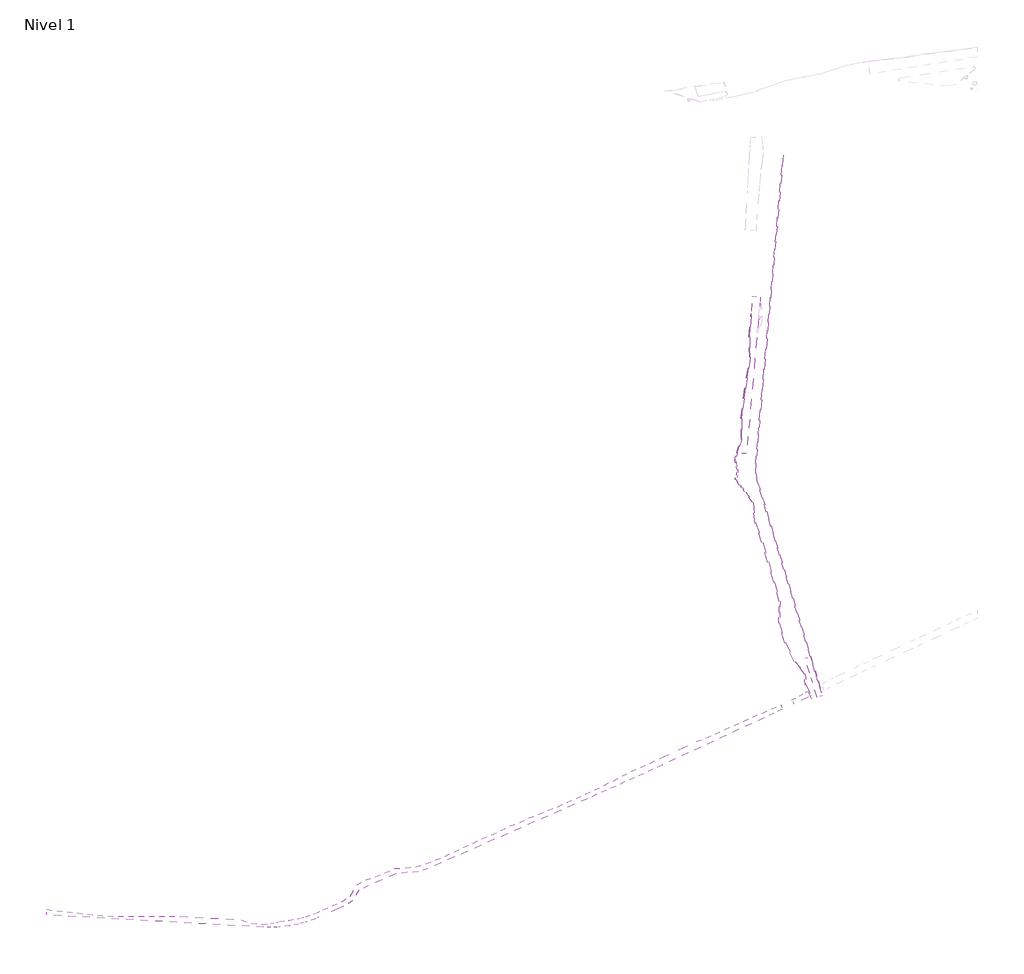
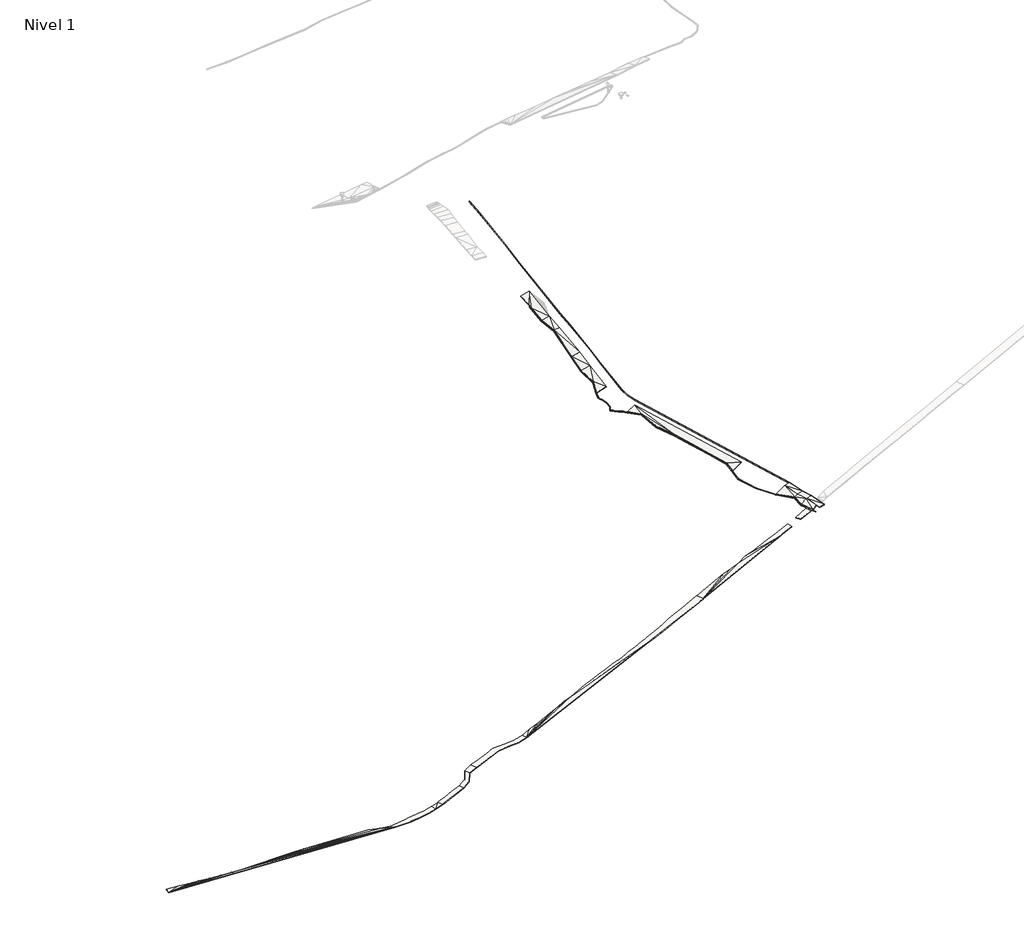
# One storey, part 1 of 45: 6 slabs.
"""IFC4 building model written with IfcOpenShell, lengths in millimetres."""

from ifc_helpers import new_model, si_unit, frame, origin, place, context, project, spatial, polyline, circle_curve, faceted_brep, element, save
from ifc_brep_helpers import plane_surface, cylinder_surface, revolved_surface, advanced_brep

model = new_model("IFC4")

# Units and contexts
model_context = context("Model", 3, world=origin())
ifc_project = project(units=[si_unit("LENGTHUNIT", "METRE", prefix="MILLI")], contexts=[model_context])

# Site, building, storey
site = spatial("IfcSite", under=ifc_project)
building = spatial("IfcBuilding", under=site)
storey = spatial("IfcBuildingStorey", under=building, Name="Nivel 1", Elevation=0.0)

# Slabs
placement = place(None, origin())
element("IfcSlab", 1, ObjectType="Lippia", at=placement, inside=storey, context=model_context, shape_type="Brep", body=[
    faceted_brep([(-176955.29196, -887777.8293685, 2830.0), (-176955.29196, -887777.8293685, 3130.0), (-172486.7699289, -885811.6730758, 3130.0), (-172486.7699289, -885811.6730758, 2830.0), (-171742.2672685, -887965.8837345, 3130.0), (-171742.2672685, -887965.8837345, 2830.0), (-175958.1229099, -889931.2631086, 3130.0), (-175958.1229099, -889931.2631086, 2830.0), (-180491.4289126, -892040.5807841, 3130.0), (-180491.4289126, -892040.5807841, 2830.0), (-230087.3249721, -915006.4569291, 3070.0), (-230087.3249721, -915006.4569291, 2770.0), (-230329.374977, -915118.5209368, 3070.0), (-230329.374977, -915118.5209368, 2770.0), (-230399.1868208, -915150.8350287, 3070.0), (-230399.1868208, -915150.8350287, 2770.0), (-234923.5557702, -917238.0789526, 3070.0), (-234923.5557702, -917238.0789526, 2770.0), (-239453.1286853, -919314.0054446, 3070.0), (-239453.1286853, -919314.0054446, 2770.0), (-243987.8772561, -921378.6015276, 3070.0), (-243987.8772561, -921378.6015276, 2770.0), (-248527.7731411, -923431.8542991, 3070.0), (-248527.7731411, -923431.8542991, 2770.0), (-253072.7879654, -925473.7509274, 3070.0), (-253072.7879654, -925473.7509274, 2770.0), (-257622.8933225, -927504.2786494, 3070.0), (-257622.8933225, -927504.2786494, 2770.0), (-262178.0607749, -929523.4247752, 3070.0), (-262178.0607749, -929523.4247752, 2770.0), (-266667.9698208, -931500.3319391, 3070.0), (-266667.9698208, -931500.3319391, 2770.0), (-344573.7741226, -965687.8531118, 2900.0), (-344573.7741226, -965687.8531118, 2600.0), (-349399.6199214, -967133.519464, 2900.0), (-349399.6199214, -967133.519464, 2600.0), (-354681.0043005, -967541.1140815, 2900.0), (-354681.0043005, -967541.1140815, 2600.0), (-359896.4871213, -968098.8837842, 2900.0), (-359896.4871213, -968098.8837842, 2600.0), (-373622.7287017, -974147.9199518, 2900.0), (-373622.7287017, -974147.9199518, 2600.0), (-378188.7991046, -976185.557016, 2830.0), (-378188.7991046, -976185.557016, 2530.0), (-381382.5509948, -981350.404647, 2730.0), (-381382.5509948, -981350.404647, 2430.0), (-385660.1279593, -984045.4544917, 2630.0), (-385660.1279593, -984045.4544917, 2330.0), (-397889.4636122, -989412.0722328, 2630.0), (-397889.4636122, -989412.0722328, 2330.0), (-399248.9860948, -989988.2702388, 2630.0), (-399248.9860948, -989988.2702388, 2330.0), (-399293.753138, -990006.5572456, 2630.0), (-399293.753138, -990006.5572456, 2330.0), (-403464.5473408, -991525.9187602, 2620.0), (-403464.5473408, -991525.9187602, 2320.0), (-405411.2786613, -992115.0570818, 2620.0), (-405411.2786613, -992115.0570818, 2320.0), (-407785.8067034, -992735.066031, 2620.0), (-407785.8067034, -992735.066031, 2320.0), (-411724.6541677, -993533.2177923, 2620.0), (-411724.6541677, -993533.2177923, 2320.0), (-412187.2072063, -993608.5608591, 2620.0), (-412187.2072063, -993608.5608591, 2320.0), (-416642.7178993, -994141.2371815, 2620.0), (-416642.7178993, -994141.2371815, 2320.0), (-418156.2363455, -994243.5985216, 2620.0), (-418156.2363455, -994243.5985216, 2320.0), (-421125.9878109, -994329.9446244, 2620.0), (-421125.9878109, -994329.9446244, 2320.0), (-424626.9281509, -994237.4628418, 2620.0), (-424626.9281509, -994237.4628418, 2320.0), (-530556.094211, -988254.020159, 2462.9805318), (-530556.094211, -988254.020159, 2162.9805318), (-530404.9684967, -985578.5335329, 2463.0), (-530404.9684967, -985578.5335329, 2163.0), (-525430.3908756, -986169.7049279, 2463.0), (-525430.3908756, -986169.7049279, 2163.0), (-520457.7446564, -986795.0693153, 2463.0), (-520457.7446564, -986795.0693153, 2163.0), (-515478.3895963, -987301.6622931, 2463.0), (-515478.3895963, -987301.6622931, 2163.0), (-510505.2470749, -987918.2402853, 2463.0), (-510505.2470749, -987918.2402853, 2163.0), (-505527.3742451, -988451.0742453, 2463.0), (-505527.3742451, -988451.0742453, 2163.0), (-500538.0236586, -988780.7092675, 2463.0), (-500538.0236586, -988780.7092675, 2163.0), (-495534.8169833, -988865.0400367, 2463.0), (-495534.8169833, -988865.0400367, 2163.0), (-490528.7023022, -988897.8882999, 2463.0), (-490528.7023022, -988897.8882999, 2163.0), (-485523.0076509, -988938.1726541, 2463.0), (-485523.0076509, -988938.1726541, 2163.0), (-480517.4986644, -988981.7439605, 2463.0), (-480517.4986644, -988981.7439605, 2163.0), (-475509.7240159, -988985.2046341, 2463.0), (-475509.7240159, -988985.2046341, 2163.0), (-470494.3433279, -988854.0101469, 2463.0), (-470494.3433279, -988854.0101469, 2163.0), (-465490.2418895, -988922.5002889, 2463.0), (-465490.2418895, -988922.5002889, 2163.0), (-435537.9865376, -990614.3629708, 2620.0), (-435537.9865376, -990614.3629708, 2320.0), (-430627.6675198, -992343.1503892, 2620.0), (-430627.6675198, -992343.1503892, 2320.0), (-425646.467569, -992817.0819458, 2620.0), (-425646.467569, -992817.0819458, 2320.0), (-424539.4403045, -992688.602914, 2620.0), (-424539.4403045, -992688.602914, 2320.0), (-421133.6089593, -992215.9658958, 2620.0), (-421133.6089593, -992215.9658958, 2320.0), (-418293.0274685, -991737.4871158, 2620.0), (-418293.0274685, -991737.4871158, 2320.0), (-416860.3836227, -991444.1066951, 2620.0), (-416860.3836227, -991444.1066951, 2320.0), (-412619.173891, -990887.7750103, 2620.0), (-412619.173891, -990887.7750103, 2320.0), (-412177.3798137, -990822.4558149, 2620.0), (-412177.3798137, -990822.4558149, 2320.0), (-408410.1905281, -990119.9802541, 2620.0), (-408410.1905281, -990119.9802541, 2320.0), (-406102.4755313, -989678.7012805, 2620.0), (-406102.4755313, -989678.7012805, 2320.0), (-404231.1870837, -989143.264043, 2620.0), (-404231.1870837, -989143.264043, 2320.0), (-400226.8746159, -987719.5462052, 2630.0), (-400226.8746159, -987719.5462052, 2330.0), (-400184.4245478, -987701.0018163, 2630.0), (-400184.4245478, -987701.0018163, 2330.0), (-398884.4451069, -987144.7293263, 2630.0), (-398884.4451069, -987144.7293263, 2330.0), (-395792.149461, -985842.2215142, 2630.0), (-395792.149461, -985842.2215142, 2330.0), (-391245.331725, -983760.7118775, 2630.0), (-391245.331725, -983760.7118775, 2330.0), (-386641.4531349, -981809.2313175, 2630.0), (-386641.4531349, -981809.2313175, 2330.0), (-382388.984385, -979056.9654022, 2730.0), (-382388.984385, -979056.9654022, 2430.0), (-379318.6526492, -973610.8705186, 2830.0), (-379318.6526492, -973610.8705186, 2530.0), (-374924.3512039, -971181.8099663, 2900.0), (-374924.3512039, -971181.8099663, 2600.0), (-370141.8879159, -969637.2844603, 2900.0), (-370141.8879159, -969637.2844603, 2600.0), (-365517.8672948, -967731.7031351, 2900.0), (-365517.8672948, -967731.7031351, 2600.0), (-360988.5775142, -965610.251163, 2900.0), (-360988.5775142, -965610.251163, 2600.0), (-355666.0663705, -965296.3753518, 2900.0), (-355666.0663705, -965296.3753518, 2600.0), (-350405.8161769, -964840.6205968, 2900.0), (-350405.8161769, -964840.6205968, 2600.0), (-345592.4285116, -963366.5649117, 2900.0), (-345592.4285116, -963366.5649117, 2600.0), (-340970.2208436, -961456.8522674, 3070.0), (-340970.2208436, -961456.8522674, 2770.0), (-336342.9924741, -959558.5806918, 3070.0), (-336342.9924741, -959558.5806918, 2770.0), (-331782.4972727, -957508.2389758, 3070.0), (-331782.4972727, -957508.2389758, 2770.0), (-327287.3507981, -955308.9819577, 3070.0), (-327287.3507981, -955308.9819577, 2770.0), (-322746.8065391, -953213.1764543, 3070.0), (-322746.8065391, -953213.1764543, 2770.0), (-318257.0997217, -951001.5236576, 3070.0), (-318257.0997217, -951001.5236576, 2770.0), (-313615.9016544, -949135.0859356, 3070.0), (-313615.9016544, -949135.0859356, 2770.0), (-309074.0919562, -947042.16409, 3070.0), (-309074.0919562, -947042.16409, 2770.0), (-304558.4337628, -944889.6487438, 3070.0), (-304558.4337628, -944889.6487438, 2770.0), (-299896.0358311, -943071.5208266, 3070.0), (-299896.0358311, -943071.5208266, 2770.0), (-295351.9402715, -940983.807952, 3070.0), (-295351.9402715, -940983.807952, 2770.0), (-290741.1215126, -939048.1425029, 3070.0), (-290741.1215126, -939048.1425029, 2770.0), (-286101.8882174, -937177.2274998, 3070.0), (-286101.8882174, -937177.2274998, 2770.0), (-281406.0821846, -935435.2292613, 3070.0), (-281406.0821846, -935435.2292613, 2770.0), (-276901.3422436, -933257.8336306, 3070.0), (-276901.3422436, -933257.8336306, 2770.0), (-272297.4499893, -931306.3842066, 3070.0), (-272297.4499893, -931306.3842066, 2770.0), (-267738.6534465, -929252.1716253, 3070.0), (-267738.6534465, -929252.1716253, 2770.0), (-267669.2759861, -929218.5765066, 3070.0), (-267669.2759861, -929218.5765066, 2770.0), (-263184.399542, -927245.4558135, 3070.0), (-263184.399542, -927245.4558135, 2770.0), (-258736.1375867, -925001.264057, 3070.0), (-258736.1375867, -925001.264057, 2770.0), (-254295.5040146, -922743.0066679, 3070.0), (-254295.5040146, -922743.0066679, 2770.0), (-249860.8053362, -920474.580393, 3070.0), (-249860.8053362, -920474.580393, 2770.0), (-245392.2526598, -918283.7313869, 3070.0), (-245392.2526598, -918283.7313869, 2770.0), (-240851.9253298, -916251.7971721, 3070.0), (-240851.9253298, -916251.7971721, 2770.0), (-236330.1670852, -914179.0215996, 3070.0), (-236330.1670852, -914179.0215996, 2770.0), (-231826.734035, -912066.5846456, 3070.0), (-231826.734035, -912066.5846456, 2770.0), (-231757.0412362, -912034.3256582, 3070.0), (-231757.0412362, -912034.3256582, 2770.0), (-231515.4039816, -911922.4527449, 3070.0), (-231515.4039816, -911922.4527449, 2770.0), (-213679.674474, -903663.4396546, 3130.0), (-213679.674474, -903663.4396546, 2830.0), (-209008.0525086, -901852.8218333, 3130.0), (-209008.0525086, -901852.8218333, 2830.0), (-204387.8093632, -899931.2490196, 3130.0), (-204387.8093632, -899931.2490196, 2830.0), (-199903.8300831, -897715.4079423, 3600.0), (-199903.8300831, -897715.4079423, 3300.0), (-195286.7877743, -895786.9227723, 3130.0), (-195286.7877743, -895786.9227723, 2830.0), (-190725.3479831, -893738.3613334, 3130.0), (-190725.3479831, -893738.3613334, 2830.0), (-186188.7664627, -891636.1172822, 3130.0), (-186188.7664627, -891636.1172822, 2830.0), (-181510.4705311, -889839.9122067, 3130.0), (-181510.4705311, -889839.9122067, 2830.0)], [[[0, 1, 2, 3]], [[3, 2, 4, 5]], [[5, 4, 6, 7]], [[7, 6, 8, 9]], [[9, 8, 10, 11]], [[11, 10, 12, 13]], [[13, 12, 14, 15]], [[15, 14, 16, 17]], [[17, 16, 18, 19]], [[19, 18, 20, 21]], [[21, 20, 22, 23]], [[23, 22, 24, 25]], [[25, 24, 26, 27]], [[27, 26, 28, 29]], [[29, 28, 30, 31]], [[31, 30, 32, 33]], [[33, 32, 34, 35]], [[35, 34, 36, 37]], [[37, 36, 38, 39]], [[39, 38, 40, 41]], [[41, 40, 42, 43]], [[43, 42, 44, 45]], [[45, 44, 46, 47]], [[47, 46, 48, 49]], [[49, 48, 50, 51]], [[51, 50, 52, 53]], [[53, 52, 54, 55]], [[55, 54, 56, 57]], [[57, 56, 58, 59]], [[59, 58, 60, 61]], [[61, 60, 62, 63]], [[63, 62, 64, 65]], [[65, 64, 66, 67]], [[67, 66, 68, 69]], [[69, 68, 70, 71]], [[71, 70, 72, 73]], [[73, 72, 74, 75]], [[75, 74, 76, 77]], [[77, 76, 78, 79]], [[79, 78, 80, 81]], [[81, 80, 82, 83]], [[83, 82, 84, 85]], [[85, 84, 86, 87]], [[87, 86, 88, 89]], [[89, 88, 90, 91]], [[91, 90, 92, 93]], [[93, 92, 94, 95]], [[95, 94, 96, 97]], [[97, 96, 98, 99]], [[99, 98, 100, 101]], [[101, 100, 102, 103]], [[103, 102, 104, 105]], [[105, 104, 106, 107]], [[107, 106, 108, 109]], [[109, 108, 110, 111]], [[111, 110, 112, 113]], [[113, 112, 114, 115]], [[115, 114, 116, 117]], [[117, 116, 118, 119]], [[119, 118, 120, 121]], [[121, 120, 122, 123]], [[123, 122, 124, 125]], [[125, 124, 126, 127]], [[127, 126, 128, 129]], [[129, 128, 130, 131]], [[131, 130, 132, 133]], [[133, 132, 134, 135]], [[135, 134, 136, 137]], [[137, 136, 138, 139]], [[139, 138, 140, 141]], [[141, 140, 142, 143]], [[143, 142, 144, 145]], [[145, 144, 146, 147]], [[147, 146, 148, 149]], [[149, 148, 150, 151]], [[151, 150, 152, 153]], [[153, 152, 154, 155]], [[155, 154, 156, 157]], [[157, 156, 158, 159]], [[159, 158, 160, 161]], [[161, 160, 162, 163]], [[163, 162, 164, 165]], [[165, 164, 166, 167]], [[167, 166, 168, 169]], [[169, 168, 170, 171]], [[171, 170, 172, 173]], [[173, 172, 174, 175]], [[175, 174, 176, 177]], [[177, 176, 178, 179]], [[179, 178, 180, 181]], [[181, 180, 182, 183]], [[183, 182, 184, 185]], [[185, 184, 186, 187]], [[187, 186, 188, 189]], [[189, 188, 190, 191]], [[191, 190, 192, 193]], [[193, 192, 194, 195]], [[195, 194, 196, 197]], [[197, 196, 198, 199]], [[199, 198, 200, 201]], [[201, 200, 202, 203]], [[203, 202, 204, 205]], [[205, 204, 206, 207]], [[207, 206, 208, 209]], [[209, 208, 210, 211]], [[211, 210, 212, 213]], [[213, 212, 214, 215]], [[215, 214, 216, 217]], [[217, 216, 218, 219]], [[219, 218, 220, 221]], [[221, 220, 222, 223]], [[223, 222, 224, 225]], [[225, 224, 226, 227]], [[227, 226, 1, 0]], [[226, 224, 222, 220, 8, 6, 4, 2, 1]], [[227, 0, 3, 5, 7, 9, 221, 223, 225]], [[216, 214, 10]], [[220, 218, 8]], [[218, 216, 8]], [[216, 10, 8]], [[217, 11, 215]], [[221, 9, 219]], [[219, 9, 217]], [[217, 9, 11]], [[210, 208, 206, 204, 202, 200, 198, 196, 194, 192, 190, 188, 186, 184, 182, 180, 178, 176, 174, 172, 170, 168, 30, 28, 26, 24, 22, 20, 18, 16, 14, 12, 10]], [[212, 210, 10]], [[214, 212, 10]], [[211, 11, 13, 15, 17, 19, 21, 23, 25, 27, 29, 31, 169, 171, 173, 175, 177, 179, 181, 183, 185, 187, 189, 191, 193, 195, 197, 199, 201, 203, 205, 207, 209]], [[213, 11, 211]], [[215, 11, 213]], [[168, 166, 164]], [[168, 32, 30]], [[169, 165, 167]], [[169, 31, 33]], [[156, 154, 32]], [[158, 156, 32]], [[160, 158, 32]], [[162, 160, 32]], [[164, 162, 32]], [[168, 164, 32]], [[157, 33, 155]], [[159, 33, 157]], [[161, 33, 159]], [[163, 33, 161]], [[165, 33, 163]], [[169, 33, 165]], [[154, 152, 150, 148, 146, 144, 142, 40, 38, 36, 34, 32]], [[155, 33, 35, 37, 39, 41, 143, 145, 147, 149, 151, 153]], [[136, 134, 132, 130, 128, 126, 52, 50, 48, 46]], [[137, 47, 49, 51, 53, 127, 129, 131, 133, 135]], [[126, 54, 52]], [[126, 124, 54]], [[124, 122, 120, 118, 116, 114, 112, 110, 108, 106, 104, 70, 68, 66, 64, 62, 60, 58, 56, 54]], [[127, 53, 55]], [[127, 55, 125]], [[125, 55, 57, 59, 61, 63, 65, 67, 69, 71, 105, 107, 109, 111, 113, 115, 117, 119, 121, 123]], [[140, 138, 136, 46, 44, 42]], [[141, 43, 45, 47, 137, 139]], [[142, 140, 42, 40]], [[143, 41, 43, 141]], [[104, 100, 70]], [[94, 92, 70]], [[96, 94, 70]], [[100, 96, 70]], [[104, 102, 100]], [[100, 98, 96]], [[92, 90, 70]], [[90, 88, 70]], [[88, 86, 70]], [[86, 72, 70]], [[86, 84, 72]], [[105, 71, 101]], [[95, 71, 93]], [[97, 71, 95]], [[101, 71, 97]], [[105, 101, 103]], [[101, 97, 99]], [[93, 71, 91]], [[91, 71, 89]], [[89, 71, 87]], [[87, 71, 73]], [[87, 73, 85]], [[84, 82, 72]], [[82, 80, 72]], [[76, 74, 72]], [[78, 76, 72]], [[80, 78, 72]], [[85, 73, 83]], [[83, 73, 81]], [[77, 73, 75]], [[79, 73, 77]], [[81, 73, 79]]]),
])
element("IfcSlab", 2, ObjectType="Tierra Compactada", at=placement, inside=storey, context=model_context, shape_type="Brep", body=[
    faceted_brep([(-158054.3542155, -862135.199556, 4650.0), (-158054.3542155, -862135.199556, 5000.0), (-155873.8067912, -869311.2160637, 4250.0), (-154420.108508, -874095.22707, 4250.0), (-152239.5610837, -881271.2435778, 3500.0), (-152239.5610837, -881271.2435778, 3150.0), (-154420.108508, -874095.22707, 3900.0), (-155873.8067912, -869311.2160637, 3900.0), (-154822.9270264, -882056.2406505, 3500.0), (-154822.9270264, -882056.2406505, 3150.0), (-157003.4656931, -874880.2529633, 4250.0), (-158457.1639735, -870096.2419663, 4250.0), (-160637.7201582, -862920.1966287, 5000.0), (-160637.7201582, -862920.1966287, 4650.0), (-158457.1639735, -870096.2419663, 3900.0), (-157003.4656931, -874880.2529633, 3900.0)], [[[0, 1, 2, 3, 4, 5, 6, 7]], [[5, 4, 8, 9]], [[9, 8, 10, 11, 12, 13, 14, 15]], [[13, 12, 1, 0]], [[12, 11, 2]], [[13, 7, 14]], [[8, 4, 10]], [[3, 2, 11, 10]], [[9, 15, 5]], [[6, 15, 14, 7]], [[4, 3, 10]], [[5, 15, 6]], [[12, 2, 1]], [[13, 0, 7]]]),
])
element("IfcSlab", 3, ObjectType="Chilca", at=placement, inside=storey, context=model_context, shape_type="Brep", body=[
    faceted_brep([(-157687.5795686, -881413.7462608, 2543.3954255), (-157687.5795686, -881413.7462608, 2843.3954255), (-160313.9283022, -875886.1899922, 3146.7171882), (-160313.9283022, -875886.1899922, 2846.7171882), (-160460.7050496, -870705.049968, 3602.0053922), (-160460.7050496, -870705.049968, 3302.0053922), (-165650.5725957, -864443.4635234, 3303.5819711), (-165650.5725957, -864443.4635234, 3003.5819711), (-160781.2317284, -862963.8363974, 4700.0), (-160781.2317284, -862963.8363974, 5000.0), (-158600.6843014, -870139.8529141, 4250.0), (-157146.986021, -874923.8639111, 4250.0), (-155486.7034478, -880387.7281774, 3678.9418413), (-155486.7034478, -880387.7281774, 3378.9418413), (-157146.986021, -874923.8639111, 3950.0), (-158600.6843014, -870139.8529141, 3950.0)], [[[0, 1, 2, 3]], [[3, 2, 4, 5]], [[5, 4, 6, 7]], [[8, 9, 10, 11, 12, 13, 14, 15]], [[7, 6, 9, 8]], [[4, 2, 11]], [[4, 9, 6]], [[4, 11, 10]], [[4, 10, 9]], [[5, 14, 3]], [[5, 7, 8]], [[5, 15, 14]], [[5, 8, 15]], [[13, 12, 1, 0]], [[11, 1, 12]], [[2, 1, 11]], [[14, 13, 0]], [[3, 14, 0]]]),
    faceted_brep([(-173006.3352576, -840549.9272595, 2973.1777466), (-173006.3352576, -840549.9272595, 3273.1777466), (-172814.4571695, -835265.8815464, 3846.5003335), (-172814.4571695, -835265.8815464, 3546.5003335), (-175690.1774902, -825688.2342013, 3857.5357133), (-175690.1774902, -825688.2342013, 3557.5357133), (-178449.1548902, -816075.1126526, 3909.2420287), (-178449.1548902, -816075.1126526, 3609.2420287), (-181401.713912, -806520.8139742, 3893.5083184), (-181401.713912, -806520.8139742, 3593.5083184), (-184694.6636853, -797069.9484745, 3759.1836622), (-184694.6636853, -797069.9484745, 3459.1836622), (-185952.495331, -787000.6797711, 4333.8511579), (-185952.495331, -787000.6797711, 4033.8511579), (-189655.5373353, -781855.0197456, 3651.5137145), (-189655.5373353, -781855.0197456, 3351.5137145), (-168049.7231406, -839043.781368, 4699.9999996), (-168049.7231407, -839043.781368, 5000.0), (-185784.8421861, -780678.8470981, 5000.0), (-185784.8421861, -780678.8470981, 4700.0)], [[[0, 1, 2, 3]], [[3, 2, 4, 5]], [[5, 4, 6, 7]], [[7, 6, 8, 9]], [[9, 8, 10, 11]], [[11, 10, 12, 13]], [[13, 12, 14, 15]], [[16, 17, 1, 0]], [[15, 14, 18, 19]], [[19, 18, 17, 16]], [[12, 10, 8]], [[13, 9, 11]], [[2, 1, 17]], [[3, 16, 0]], [[8, 6, 4, 2, 17, 18]], [[9, 19, 16, 3, 5, 7]], [[12, 8, 18]], [[12, 18, 14]], [[13, 19, 9]], [[13, 15, 19]]]),
    faceted_brep([(-193818.9737918, -763014.7752281, 3163.1412218), (-193818.9737918, -763014.7752281, 3463.1412218), (-191578.7094936, -756185.9024843, 4011.4456034), (-191578.7094936, -756185.9024843, 3711.4456034), (-191592.8597116, -746145.0707862, 3710.2551617), (-191592.8597116, -746145.0707862, 3410.2551617), (-190398.6345849, -736211.8454526, 4312.6263972), (-190398.6345849, -736211.8454526, 4012.6263972), (-187419.0215517, -716398.0380955, 4716.088746), (-187419.0215517, -716398.0380955, 4416.088746), (-187725.8088118, -706331.1469375, 3816.6027001), (-187725.8088118, -706331.1469375, 3516.6027001), (-186878.1551299, -696367.0592612, 3803.440203), (-186878.1551299, -696367.0592612, 3503.440203), (-186727.0215324, -693711.934808, 3775.1126221), (-186309.5700062, -686378.120395, 3696.9), (-186309.5700062, -686378.120395, 3396.9), (-186727.0215324, -693711.934808, 3475.1126221), (-182415.5658842, -686724.883203, 5000.0), (-182415.5658842, -686724.883203, 4700.0), (-184189.5529532, -706646.0304608, 5000.0), (-185076.5474432, -716606.61482, 5500.0), (-186850.5364233, -736527.7835385, 5500.0), (-187737.5309133, -746488.3678977, 5000.0), (-189218.7514102, -763121.8666168, 5000.0), (-189218.7514102, -763121.8666168, 4700.0), (-187737.5309133, -746488.3678977, 4700.0), (-186850.5364233, -736527.7835385, 5200.0), (-185076.5474432, -716606.61482, 5200.0), (-184189.5529532, -706646.0304608, 4700.0)], [[[0, 1, 2, 3]], [[3, 2, 4, 5]], [[5, 4, 6, 7]], [[7, 6, 8, 9]], [[9, 8, 10, 11]], [[11, 10, 12, 13]], [[13, 12, 14, 15, 16, 17]], [[16, 15, 18, 19]], [[19, 18, 20, 21, 22, 23, 24, 25, 26, 27, 28, 29]], [[25, 24, 1, 0]], [[18, 15, 14]], [[19, 17, 16]], [[2, 1, 24]], [[4, 2, 23]], [[6, 4, 23]], [[18, 12, 20]], [[8, 6, 22]], [[3, 25, 0]], [[5, 26, 3]], [[7, 26, 5]], [[19, 29, 13]], [[9, 27, 7]], [[12, 10, 20]], [[10, 8, 20]], [[13, 29, 11]], [[11, 29, 9]], [[8, 21, 20]], [[9, 29, 28]], [[2, 24, 23]], [[8, 22, 21]], [[3, 26, 25]], [[9, 28, 27]], [[6, 23, 22]], [[7, 27, 26]], [[18, 14, 12]], [[19, 13, 17]]]),
])
element("IfcSlab", 4, ObjectType="Bordillo", at=placement, inside=storey, context=model_context, shape_type="AdvancedBrep", body=[
    advanced_brep(
    [(-158054.3542155, -862135.199556, 4600.0), (-158054.3542155, -862135.199556, 5000.0), (-183788.3708379, -777446.4988596, 5000.0), (-183788.3708379, -777446.4988596, 4600.0), (-184775.4408695, -767904.3434621, 5000.0), (-184775.4408695, -767904.3434621, 4600.0), (-182906.6474916, -746918.5602247, 5000.0), (-182019.6530021, -736957.9758655, 5500.0), (-180245.664023, -717036.807147, 5500.0), (-179358.6695335, -707076.2227877, 5000.0), (-175810.6934874, -667233.9068218, 5000.0), (-174480.2017532, -652293.0302842, 5500.0), (-172262.7155295, -627391.569387, 5500.0), (-171375.7210399, -617430.9850274, 5000.0), (-171375.7210399, -617430.9850274, 4600.0), (-172262.7155295, -627391.569387, 5100.0), (-174480.2017532, -652293.0302842, 5100.0), (-175810.6934874, -667233.9068218, 4600.0), (-179358.6695335, -707076.2227877, 4600.0), (-180245.664023, -717036.807147, 5100.0), (-182019.6530021, -736957.9758655, 5100.0), (-182906.6474916, -746918.5602247, 4600.0), (-171226.3122746, -617444.2899448, 5000.0), (-171226.3122746, -617444.2899448, 4600.0), (-172113.3067641, -627404.8743044, 5500.0), (-174330.7929878, -652306.3352016, 5500.0), (-175661.284722, -667247.2117392, 5000.0), (-179209.2607681, -707089.5277051, 5000.0), (-180096.2552576, -717050.1120644, 5500.0), (-181870.2442366, -736971.2807828, 5500.0), (-182757.2387261, -746931.865142, 5000.0), (-184626.0321039, -767917.6483792, 5000.0), (-184626.0321039, -767917.6483792, 4600.0), (-182757.2387261, -746931.865142, 4600.0), (-181870.2442366, -736971.2807828, 5100.0), (-180096.2552576, -717050.1120644, 5100.0), (-179209.2607681, -707089.5277051, 4600.0), (-175661.284722, -667247.2117392, 4600.0), (-174330.7929878, -652306.3352016, 5100.0), (-172113.3067641, -627404.8743044, 5100.0), (-183644.6262426, -777403.6259904, 5000.0), (-183644.6262426, -777403.6259904, 4600.0), (-157910.8501709, -862091.5935559, 5000.0), (-157910.8501709, -862091.5935559, 4600.0), (-155730.293986, -869267.6388937, 4250.0), (-154276.6044631, -874051.6210701, 4250.0), (-152608.1748659, -879542.2965756, 3674.0), (-152608.1748659, -879542.2965756, 3274.0), (-154276.6044631, -874051.6210701, 3850.0), (-155730.293986, -869267.6388937, 3850.0), (-152745.4792846, -879606.3050762, 3274.0107307), (-152745.4792846, -879606.3050762, 3674.0107307), (-154420.108508, -874095.2270701, 4250.0), (-155873.7980308, -869311.2448936, 4250.0), (-155873.7980308, -869311.2448936, 3850.0), (-154420.108508, -874095.2270701, 3850.0)],
    [
        (0, 1),
        (1, 2),
        (2, 3),
        (3, 0),
        (2, 4, circle_curve(frame((-159724.5712062, -770135.1346033, 5000.0), z_axis=(0.0, 0.0, -1.0), x_axis=(1.0, 0.0, 0.0)), 25150.0)),
        (4, 5),
        (5, 3, circle_curve(frame((-159724.5712062, -770135.1346033, 4600.0), z_axis=(0.0, 0.0, 1.0), x_axis=(1.0, 0.0, 0.0)), 25150.0)),
        (4, 6),
        (6, 7),
        (7, 8),
        (8, 9),
        (9, 10),
        (10, 11),
        (11, 12),
        (12, 13),
        (13, 14),
        (14, 15),
        (15, 16),
        (16, 17),
        (17, 18),
        (18, 19),
        (19, 20),
        (20, 21),
        (21, 5),
        (13, 22),
        (22, 23),
        (23, 14),
        (22, 24),
        (24, 25),
        (25, 26),
        (26, 27),
        (27, 28),
        (28, 29),
        (29, 30),
        (30, 31),
        (31, 32),
        (32, 33),
        (33, 34),
        (34, 35),
        (35, 36),
        (36, 37),
        (37, 38),
        (38, 39),
        (39, 23),
        (31, 40, circle_curve(frame((-159724.571206, -770135.1346029, 5000.0), z_axis=(0.0, 0.0, 1.0), x_axis=(1.0, 0.0, 0.0)), 25000.0)),
        (40, 41),
        (41, 32, circle_curve(frame((-159724.571206, -770135.1346029, 4600.0), z_axis=(0.0, 0.0, -1.0), x_axis=(1.0, 0.0, 0.0)), 25000.0)),
        (40, 42),
        (42, 43),
        (43, 41),
        (42, 44),
        (44, 45),
        (45, 46),
        (46, 47),
        (47, 48),
        (48, 49),
        (49, 43),
        (50, 51),
        (51, 52),
        (52, 53),
        (53, 1),
        (0, 54),
        (54, 55),
        (55, 50),
        (30, 6),
        (1, 42),
        (52, 45),
        (44, 53),
        (43, 0),
        (21, 33),
        (54, 49),
        (48, 55),
        (10, 26),
        (25, 11),
        (12, 24),
        (16, 38),
        (37, 17),
        (39, 15),
        (29, 7),
        (20, 34),
        (28, 8),
        (19, 35),
        (27, 9),
        (18, 36),
        (46, 51),
        (50, 47),
        (52, 46),
        (47, 55),
    ],
    [
        plane_surface(frame((-158054.3542155, -862135.199556, 4600.0), z_axis=(-0.9568022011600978, -0.29073965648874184, 0.0), x_axis=(0.0, 0.0, 1.0))),
        cylinder_surface(frame((-159724.5712062, -770135.1346033, 5000.0), z_axis=(0.0, 0.0, -1.0), x_axis=(1.0, 0.0, 0.0)), 25150.0),
        plane_surface(frame((-184775.4408695, -767904.3434621, 4600.0), z_axis=(-0.9960584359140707, 0.08869944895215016, 0.0), x_axis=(0.0, 0.0, 1.0))),
        plane_surface(frame((-171375.7210399, -617430.9850274, 4600.0), z_axis=(0.0886994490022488, 0.9960584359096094, 0.0), x_axis=(0.0, 0.0, 1.0))),
        plane_surface(frame((-171226.3122746, -617444.2899448, 4600.0), z_axis=(0.9960584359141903, -0.08869944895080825, 0.0), x_axis=(0.0, 0.0, 1.0))),
        revolved_surface(polyline([(-134724.571206, -770135.1346029, 5000.0), (-134724.571206, -770135.1346029, 4600.0)]), (-159724.571206, -770135.1346029, 5000.0), (0.0, 0.0, 1.0)),
        plane_surface(frame((-183644.6425169, -777403.6309356, 4600.0), z_axis=(0.95680220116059, 0.2907396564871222, 0.0), x_axis=(0.0, 0.0, 1.0))),
        plane_surface(frame((-157910.8501709, -862091.5935559, 4600.0), z_axis=(0.9568022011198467, 0.2907396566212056, 0.0), x_axis=(0.0, 0.0, 1.0))),
        plane_surface(frame((-152745.4792846, -879606.3050762, 4600.0), z_axis=(-0.9568022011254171, -0.2907396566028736, 0.0), x_axis=(0.0, 0.0, 1.0))),
        plane_surface(frame((-177307.9450823, -788593.6668962, 5000.0), z_axis=(0.0, 0.0, 1.0), x_axis=(-0.29073947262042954, 0.956802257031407, 0.0))),
        plane_surface(frame((-155075.201247, -871681.4329819, 4250.0), z_axis=(0.0, 0.0, 1.0000000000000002), x_axis=(0.9568022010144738, 0.2907396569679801, 0.0))),
        plane_surface(frame((-177307.9450823, -788593.6668962, 4600.0), z_axis=(0.0, 0.0, -1.0), x_axis=(-0.29073947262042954, 0.956802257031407, 0.0))),
        plane_surface(frame((-155075.201247, -871681.4329819, 3850.0), z_axis=(0.0, 0.0, -1.0000000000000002), x_axis=(0.9568022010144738, 0.2907396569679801, 0.0))),
        plane_surface(frame((-156892.3241008, -865701.4192248, 4625.0), z_axis=(0.028929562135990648, -0.09520499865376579, 0.9950372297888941), x_axis=(-0.9568022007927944, -0.2907396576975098, 0.0))),
        plane_surface(frame((-156892.3241008, -865701.4192248, 4225.0), z_axis=(-0.028929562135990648, 0.09520499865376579, -0.9950372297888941), x_axis=(-0.9568022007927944, -0.2907396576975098, 0.0))),
        plane_surface(frame((-175070.7432376, -659770.1210117, 5250.0), z_axis=(-0.002955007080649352, -0.033183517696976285, 0.999444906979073), x_axis=(0.9960584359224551, -0.08869944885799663, 0.0))),
        plane_surface(frame((-171744.513902, -622417.9296659, 5250.0), z_axis=(0.004429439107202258, 0.04974078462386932, 0.998752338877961), x_axis=(-0.9960584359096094, 0.0886994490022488, 0.0))),
        plane_surface(frame((-175070.7432376, -659770.1210117, 4850.0), z_axis=(0.002955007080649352, 0.033183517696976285, -0.999444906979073), x_axis=(0.9960584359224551, -0.08869944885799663, 0.0))),
        plane_surface(frame((-171744.513902, -622417.9296659, 4850.0), z_axis=(-0.004429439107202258, -0.04974078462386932, -0.998752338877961), x_axis=(-0.9960584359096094, 0.0886994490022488, 0.0))),
        plane_surface(frame((-173296.7542586, -639848.9522943, 5500.0), z_axis=(0.0, 0.0, 1.0), x_axis=(0.9960584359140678, -0.08869944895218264, 0.0))),
        plane_surface(frame((-173296.7542586, -639848.9522943, 5100.0), z_axis=(0.0, 0.0, -1.0), x_axis=(0.9960584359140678, -0.08869944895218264, 0.0))),
        plane_surface(frame((-182388.4458641, -741944.9205038, 5250.0), z_axis=(-0.004429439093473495, -0.04974078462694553, 0.9987523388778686), x_axis=(0.996058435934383, -0.08869944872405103, 0.0))),
        plane_surface(frame((-182388.4458641, -741944.9205038, 4850.0), z_axis=(0.004429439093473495, 0.04974078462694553, -0.9987523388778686), x_axis=(0.996058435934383, -0.08869944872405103, 0.0))),
        plane_surface(frame((-181057.9541298, -727004.0439649, 5500.0), z_axis=(0.0, 0.0, 1.0), x_axis=(0.9960584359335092, -0.08869944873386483, 0.0))),
        plane_surface(frame((-181057.9541298, -727004.0439649, 5100.0), z_axis=(0.0, 0.0, -1.0), x_axis=(0.9960584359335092, -0.08869944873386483, 0.0))),
        plane_surface(frame((-179727.4623955, -712063.167426, 5250.0), z_axis=(0.0044294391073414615, 0.04974078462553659, 0.9987523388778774), x_axis=(0.9960584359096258, -0.08869944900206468, 0.0))),
        plane_surface(frame((-177509.9771277, -687161.7172635, 5000.0), z_axis=(0.0, 0.0, 1.0000000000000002), x_axis=(-0.0886994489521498, -0.9960584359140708, 0.0))),
        plane_surface(frame((-179727.4623955, -712063.167426, 4850.0), z_axis=(-0.0044294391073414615, -0.04974078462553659, -0.9987523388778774), x_axis=(0.9960584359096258, -0.08869944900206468, 0.0))),
        plane_surface(frame((-177509.9771277, -687161.7172635, 4600.0), z_axis=(0.0, 0.0, -1.0000000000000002), x_axis=(-0.0886994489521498, -0.9960584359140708, 0.0))),
        plane_surface(frame((-152608.1748659, -879542.2965756, 4600.0), z_axis=(0.42252282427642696, -0.9063522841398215, 0.0), x_axis=(0.0, 0.0, 1.0))),
        plane_surface(frame((-153768.2959457, -875896.3815719, 4058.0), z_axis=(0.029036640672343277, -0.09555738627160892, 0.9950003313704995), x_axis=(0.31406178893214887, -0.9441385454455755, -0.09983786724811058))),
        plane_surface(frame((-153257.9208861, -877747.9429073, 3866.0035769), z_axis=(0.04252919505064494, -0.09106243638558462, 0.9949366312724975), x_axis=(0.28929677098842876, -0.9520537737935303, -0.09950371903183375))),
        plane_surface(frame((-153768.2959457, -875896.3815719, 3658.0), z_axis=(-0.029036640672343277, 0.09555738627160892, -0.9950003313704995), x_axis=(0.31406178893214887, -0.9441385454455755, -0.09983786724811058))),
        plane_surface(frame((-153257.9208861, -877747.9429073, 3466.0035769), z_axis=(-0.04252919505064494, 0.09106243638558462, -0.9949366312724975), x_axis=(0.28929677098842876, -0.9520537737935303, -0.09950371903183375))),
    ],
    [
        (0, [[1, 2, 3, 4]]),
        (1, [[-3, 5, 6, 7]]),
        (2, [[-6, 8, 9, 10, 11, 12, 13, 14, 15, 16, 17, 18, 19, 20, 21, 22, 23, 24]]),
        (3, [[-16, 25, 26, 27]]),
        (4, [[-26, 28, 29, 30, 31, 32, 33, 34, 35, 36, 37, 38, 39, 40, 41, 42, 43, 44]]),
        (5, [[-36, 45, 46, 47]]),
        (6, [[-46, 48, 49, 50]]),
        (7, [[-49, 51, 52, 53, 54, 55, 56, 57]]),
        (8, [[58, 59, 60, 61, -1, 62, 63, 64]]),
        (9, [[-48, -45, -35, 65, -8, -5, -2, 66]]),
        (10, [[67, -52, 68, -60]]),
        (11, [[69, -4, -7, -24, 70, -37, -47, -50]]),
        (12, [[-63, 71, -56, 72]]),
        (13, [[-66, -61, -68, -51]]),
        (14, [[-57, -71, -62, -69]]),
        (15, [[73, -30, 74, -13]]),
        (16, [[-25, -15, 75, -28]]),
        (17, [[-19, 76, -42, 77]]),
        (18, [[-44, 78, -17, -27]]),
        (19, [[-74, -29, -75, -14]]),
        (20, [[-18, -78, -43, -76]]),
        (21, [[-65, -34, 79, -9]]),
        (22, [[-23, 80, -38, -70]]),
        (23, [[-79, -33, 81, -10]]),
        (24, [[-22, 82, -39, -80]]),
        (25, [[-81, -32, 83, -11]]),
        (26, [[-12, -83, -31, -73]]),
        (27, [[-21, 84, -40, -82]]),
        (28, [[-77, -41, -84, -20]]),
        (29, [[-54, 85, -58, 86]]),
        (30, [[87, -53, -67]]),
        (31, [[-59, -85, -87]]),
        (32, [[-72, -55, 88]]),
        (33, [[-88, -86, -64]]),
    ],
),
])
element("IfcSlab", 5, ObjectType="Lippia", at=placement, inside=storey, context=model_context, shape_type="Brep", body=[
    faceted_brep([(-167124.3974076, -883236.4125841, 2830.0), (-167124.3974076, -883236.4125841, 3130.0), (-163405.5689893, -881341.4777512, 3130.0), (-163405.5689893, -881341.4777512, 2830.0), (-160305.9011477, -879618.9106988, 3130.0), (-158909.1738484, -878842.7125544, 2984.4804112), (-158909.1738484, -878842.7125544, 2684.4804112), (-160305.9011477, -879618.9106988, 2830.0), (-157687.5657419, -881413.7753613, 2843.3954255), (-157687.5657419, -881413.7753613, 2543.3954255), (-158974.928106, -882013.9259347, 3130.0), (-165920.7337684, -885251.9647083, 3130.0), (-165920.7337684, -885251.9647083, 2830.0), (-158974.928106, -882013.9259347, 2830.0)], [[[0, 1, 2, 3]], [[3, 2, 4, 5, 6, 7]], [[6, 5, 8, 9]], [[9, 8, 10, 11, 12, 13]], [[12, 11, 1, 0]], [[11, 10, 4, 2, 1]], [[12, 0, 3, 7, 13]], [[8, 5, 10]], [[9, 13, 6]], [[5, 4, 10]], [[6, 13, 7]]]),
])
element("IfcSlab", 6, ObjectType="Tierra de Chacra (20cm)", at=placement, inside=storey, context=model_context, shape_type="Brep", body=[
    faceted_brep([(-160612.0184155, -875957.8564661, 2646.7), (-160612.0184155, -875957.8564661, 2846.7), (-160757.6570297, -870816.8919305, 3302.0), (-160757.6570297, -870816.8919305, 3102.0), (-165903.1589409, -864608.8327206, 3003.6), (-165903.1589409, -864608.8327206, 2803.6), (-170501.7555009, -855494.2727811, 2423.6), (-170501.7555009, -855494.2727811, 2223.6), (-173499.8756206, -845874.3045077, 2399.9), (-173499.8756206, -845874.3045077, 2199.9), (-173306.137661, -840539.0406173, 2973.2), (-173306.137661, -840539.0406173, 2773.2), (-173116.0610844, -835304.6059333, 3546.5), (-173116.0610844, -835304.6059333, 3346.5), (-175978.0316022, -825772.7525975, 3710.0), (-175978.0316022, -825772.7525975, 3510.0), (-178736.6766705, -816160.7889937, 3609.2), (-178736.6766705, -816160.7889937, 3409.2), (-181686.7648964, -806614.4856585, 3593.5), (-181686.7648964, -806614.4856585, 3393.5), (-184988.4122781, -797138.6577596, 3459.2), (-184988.4122781, -797138.6577596, 3259.2), (-186240.6960881, -787113.80092, 4033.9), (-186240.6960881, -787113.80092, 3833.9), (-189951.0578713, -781957.9695021, 3351.5), (-189951.0578713, -781957.9695021, 3151.5), (-191438.2740905, -779891.368842, 3066.1), (-191438.2740905, -779891.368842, 2866.1), (-192557.5213479, -778682.2193189, 2825.3), (-192557.5213479, -778682.2193189, 2625.3), (-194782.3310077, -775870.956613, 2395.5), (-194782.3310077, -775870.956613, 2195.5), (-194880.3116613, -775596.1261358, 2393.8), (-194880.3116613, -775596.1261358, 2193.8), (-193892.1511689, -773793.3365451, 2865.1), (-193892.1511689, -773793.3365451, 2665.1), (-193811.6307558, -771021.3600345, 3114.0), (-193811.6307558, -771021.3600345, 2914.0), (-194481.9852572, -767763.2259994, 3027.3), (-194481.9852572, -767763.2259994, 2827.3), (-194689.259184, -767364.5205487, 2965.2), (-194689.259184, -767364.5205487, 2765.2), (-194824.4606618, -766825.4659203, 2931.2), (-194824.4606618, -766825.4659203, 2731.2), (-194976.8326525, -765932.3576726, 2900.9), (-194976.8326525, -765932.3576726, 2700.9), (-194009.0726942, -762631.8183801, 3163.4), (-194009.0726942, -762631.8183801, 2963.4), (-191878.7770776, -756138.1570367, 3711.4), (-191878.7770776, -756138.1570367, 3511.4), (-191892.8850359, -746127.3123287, 3410.3), (-191892.8850359, -746127.3123287, 3210.3), (-190695.9594677, -736171.62549, 4012.6), (-190695.9594677, -736171.62549, 3812.6), (-187719.7057541, -716380.1569092, 4416.1), (-187719.7057541, -716380.1569092, 4216.1), (-188026.1971506, -706322.9741943, 3516.6), (-188026.1971506, -706322.9741943, 3316.6), (-187177.4315453, -696345.8159673, 3503.4), (-187177.4315453, -696345.8159673, 3303.4), (-187079.1107811, -694618.5106575, 3484.6), (-187079.1107811, -694618.5106575, 3284.6), (-186829.3286051, -695509.2718338, 3494.2884502), (-186829.3286051, -695509.2718338, 3294.2884502), (-186878.1551299, -696367.0592612, 3503.440203), (-186878.1551299, -696367.0592612, 3303.440203), (-187725.8088118, -706331.1469375, 3516.6027001), (-187725.8088118, -706331.1469375, 3316.6027001), (-187419.0215517, -716398.0380955, 4416.088746), (-187419.0215517, -716398.0380955, 4216.088746), (-190398.6345849, -736211.8454526, 4012.6263972), (-190398.6345849, -736211.8454526, 3812.6263972), (-191592.8597116, -746145.0707862, 3410.2551617), (-191592.8597116, -746145.0707862, 3210.2551617), (-191578.7094936, -756185.9024843, 3711.4456034), (-191578.7094936, -756185.9024843, 3511.4456034), (-193818.9737918, -763014.7752281, 3163.1412218), (-193818.9737918, -763014.7752281, 2963.1412218), (-193818.9737918, -763049.7105433, 3163.4004277), (-193818.9737918, -763049.7105433, 2963.4004277), (-194669.4465528, -765950.2425822, 2900.9391045), (-194669.4465528, -765950.2425822, 2700.9391045), (-194530.6710912, -766763.6565747, 2931.2109185), (-194530.6710912, -766763.6565747, 2731.2109185), (-194406.8381913, -767257.3841507, 2965.1647622), (-194406.8381913, -767257.3841507, 2765.1647622), (-194196.552282, -767661.8833537, 3027.2613476), (-194196.552282, -767661.8833537, 2827.2613476), (-193510.742436, -770995.1352323, 3113.9718692), (-193510.742436, -770995.1352323, 2913.9718692), (-193594.3741082, -773874.2192047, 2865.0997234), (-193594.3741082, -773874.2192047, 2665.0997234), (-194552.509624, -775622.2315444, 2393.7612382), (-194552.509624, -775622.2315444, 2193.7612382), (-194516.3721953, -775723.5950934, 2395.4636196), (-194516.3721953, -775723.5950934, 2195.4636196), (-192329.478592, -778486.9471858, 2825.3120059), (-192329.478592, -778486.9471858, 2625.3120059), (-191205.5647328, -779701.1381492, 3066.0893651), (-191205.5647328, -779701.1381492, 2866.0893651), (-189655.5373344, -781855.0197452, 3351.5137148), (-189655.5373344, -781855.0197452, 3151.5137148), (-185952.495331, -787000.6797711, 4033.8511579), (-185952.495331, -787000.6797711, 3833.8511579), (-184694.6636853, -797069.9484745, 3459.1836622), (-184694.6636853, -797069.9484745, 3259.1836622), (-181401.713912, -806520.8139742, 3593.5083188), (-181401.713912, -806520.8139742, 3393.5083188), (-178449.1548901, -816075.1126526, 3609.2420287), (-178449.1548901, -816075.1126526, 3409.2420287), (-175690.1774902, -825688.2342013, 3710.0498152), (-175690.1774902, -825688.2342013, 3510.0498152), (-172814.4571695, -835265.8815464, 3546.5003335), (-172814.4571695, -835265.8815464, 3346.5003335), (-173006.3352576, -840549.9272595, 2973.1777466), (-173006.3352576, -840549.9272595, 2773.1777466), (-173198.2133458, -845833.9729713, 2399.8793186), (-173198.2133458, -845833.9729713, 2199.8793186), (-170222.7304713, -855381.3058691, 2423.5997565), (-170222.7304713, -855381.3058691, 2223.5997565), (-165650.5725944, -864443.463525, 3003.5819714), (-165650.5725944, -864443.463525, 2803.5819714), (-160460.7050496, -870705.049968, 3302.0053922), (-160460.7050496, -870705.049968, 3102.0053922), (-160313.9283022, -875886.1899922, 2846.7171882), (-160313.9283022, -875886.1899922, 2646.7171882), (-157059.3945573, -882735.8585732, 2470.8471818), (-157059.3945573, -882735.8585732, 2270.8471818), (-157330.3633773, -882864.6059948, 2470.8), (-157330.3633773, -882864.6059948, 2270.8)], [[[0, 1, 2, 3]], [[3, 2, 4, 5]], [[5, 4, 6, 7]], [[7, 6, 8, 9]], [[9, 8, 10, 11]], [[11, 10, 12, 13]], [[13, 12, 14, 15]], [[15, 14, 16, 17]], [[17, 16, 18, 19]], [[19, 18, 20, 21]], [[21, 20, 22, 23]], [[23, 22, 24, 25]], [[25, 24, 26, 27]], [[27, 26, 28, 29]], [[29, 28, 30, 31]], [[31, 30, 32, 33]], [[33, 32, 34, 35]], [[35, 34, 36, 37]], [[37, 36, 38, 39]], [[39, 38, 40, 41]], [[41, 40, 42, 43]], [[43, 42, 44, 45]], [[45, 44, 46, 47]], [[47, 46, 48, 49]], [[49, 48, 50, 51]], [[51, 50, 52, 53]], [[53, 52, 54, 55]], [[55, 54, 56, 57]], [[57, 56, 58, 59]], [[59, 58, 60, 61]], [[61, 60, 62, 63]], [[63, 62, 64, 65]], [[65, 64, 66, 67]], [[67, 66, 68, 69]], [[69, 68, 70, 71]], [[71, 70, 72, 73]], [[73, 72, 74, 75]], [[75, 74, 76, 77]], [[77, 76, 78, 79]], [[79, 78, 80, 81]], [[81, 80, 82, 83]], [[83, 82, 84, 85]], [[85, 84, 86, 87]], [[87, 86, 88, 89]], [[89, 88, 90, 91]], [[91, 90, 92, 93]], [[93, 92, 94, 95]], [[95, 94, 96, 97]], [[97, 96, 98, 99]], [[99, 98, 100, 101]], [[101, 100, 102, 103]], [[103, 102, 104, 105]], [[105, 104, 106, 107]], [[107, 106, 108, 109]], [[109, 108, 110, 111]], [[111, 110, 112, 113]], [[113, 112, 114, 115]], [[115, 114, 116, 117]], [[117, 116, 118, 119]], [[119, 118, 120, 121]], [[121, 120, 122, 123]], [[123, 122, 124, 125]], [[125, 124, 126, 127]], [[127, 126, 128, 129]], [[129, 128, 1, 0]], [[128, 126, 124]], [[129, 125, 127]], [[128, 124, 1]], [[129, 0, 125]], [[124, 122, 2]], [[125, 3, 123]], [[124, 2, 1]], [[122, 120, 2]], [[125, 0, 3]], [[123, 3, 121]], [[120, 118, 6]], [[121, 7, 119]], [[120, 4, 2]], [[121, 3, 5]], [[120, 6, 4]], [[118, 116, 6]], [[121, 5, 7]], [[119, 7, 117]], [[116, 114, 10]], [[117, 11, 115]], [[116, 8, 6]], [[117, 7, 9]], [[116, 10, 8]], [[114, 112, 12]], [[117, 9, 11]], [[115, 13, 113]], [[114, 12, 10]], [[112, 110, 12]], [[115, 11, 13]], [[113, 13, 111]], [[110, 108, 16]], [[111, 17, 109]], [[110, 14, 12]], [[111, 13, 15]], [[110, 16, 14]], [[108, 106, 18]], [[111, 15, 17]], [[109, 19, 107]], [[108, 18, 16]], [[106, 104, 18]], [[109, 17, 19]], [[107, 19, 105]], [[104, 102, 22]], [[104, 20, 18]], [[105, 23, 103]], [[105, 19, 21]], [[102, 100, 22]], [[104, 22, 20]], [[103, 23, 101]], [[105, 21, 23]], [[100, 98, 24]], [[101, 25, 99]], [[100, 24, 22]], [[101, 23, 25]], [[98, 96, 26]], [[99, 27, 97]], [[98, 26, 24]], [[99, 25, 27]], [[96, 94, 28]], [[97, 29, 95]], [[96, 28, 26]], [[97, 27, 29]], [[94, 92, 30]], [[95, 31, 93]], [[94, 30, 28]], [[95, 29, 31]], [[92, 90, 34]], [[93, 35, 91]], [[92, 32, 30]], [[93, 31, 33]], [[92, 34, 32]], [[90, 88, 34]], [[93, 33, 35]], [[91, 35, 89]], [[88, 86, 38]], [[89, 39, 87]], [[88, 36, 34]], [[89, 35, 37]], [[88, 38, 36]], [[86, 84, 38]], [[89, 37, 39]], [[87, 39, 85]], [[84, 82, 42]], [[85, 43, 83]], [[84, 40, 38]], [[85, 39, 41]], [[84, 42, 40]], [[82, 80, 42]], [[85, 41, 43]], [[83, 43, 81]], [[80, 78, 44]], [[81, 45, 79]], [[80, 44, 42]], [[78, 76, 46]], [[81, 43, 45]], [[79, 47, 77]], [[78, 46, 44]], [[79, 45, 47]], [[76, 74, 46]], [[77, 47, 75]], [[74, 48, 46]], [[74, 72, 48]], [[75, 47, 49]], [[75, 49, 73]], [[72, 70, 52]], [[73, 53, 71]], [[72, 50, 48]], [[73, 49, 51]], [[72, 52, 50]], [[70, 68, 54]], [[73, 51, 53]], [[71, 55, 69]], [[70, 54, 52]], [[68, 66, 54]], [[71, 53, 55]], [[69, 55, 67]], [[66, 64, 58]], [[67, 59, 65]], [[66, 56, 54]], [[67, 55, 57]], [[64, 62, 58]], [[66, 58, 56]], [[65, 59, 63]], [[67, 57, 59]], [[62, 60, 58]], [[63, 59, 61]]]),
])

save(model, "model.ifc")
